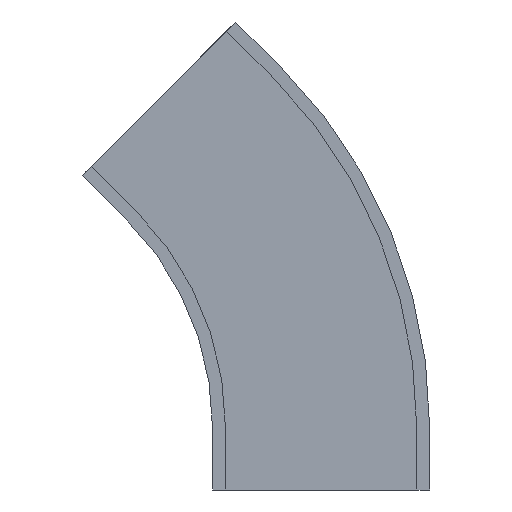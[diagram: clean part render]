
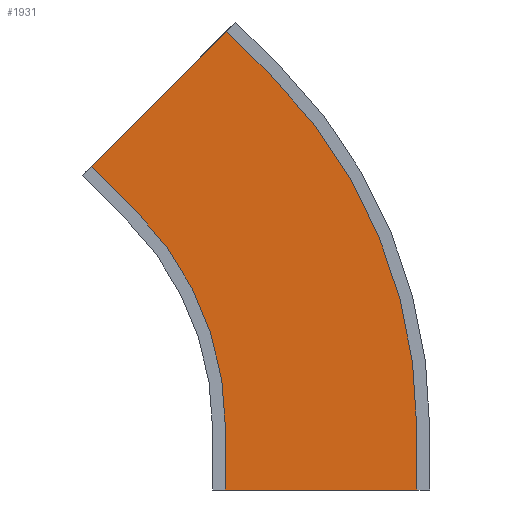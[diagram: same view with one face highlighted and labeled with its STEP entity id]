
A CAD part, front view. The second image highlights one B-rep face of the part: STEP entity #1931.
In plain terms, the highlighted planar face has unit normal (0, -1, 0).
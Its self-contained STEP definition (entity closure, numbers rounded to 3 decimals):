
#116 = DIRECTION ( 'NONE',  ( -1., 0., 0. ) ) ;
#117 = DIRECTION ( 'NONE',  ( 0., 1., 0. ) ) ;
#118 = CARTESIAN_POINT ( 'NONE',  ( 0., -68., 0. ) ) ;
#125 = DIRECTION ( 'NONE',  ( 0.707, 0., -0.707 ) ) ;
#126 = CARTESIAN_POINT ( 'NONE',  ( 489.601, -68., 631.022 ) ) ;
#127 = DIRECTION ( 'NONE',  ( 0.707, 0., 0.707 ) ) ;
#138 = CARTESIAN_POINT ( 'NONE',  ( -70.711, -68., 70.711 ) ) ;
#152 = DIRECTION ( 'NONE',  ( 0.707, 0., -0.707 ) ) ;
#153 = CARTESIAN_POINT ( 'NONE',  ( 274.075, -68., 415.496 ) ) ;
#156 = DIRECTION ( 'NONE',  ( -1., 0., 0. ) ) ;
#157 = DIRECTION ( 'NONE',  ( 0., 1., 0. ) ) ;
#158 = CARTESIAN_POINT ( 'NONE',  ( 0., -68., 0. ) ) ;
#162 = DIRECTION ( 'NONE',  ( 0., 0., 1. ) ) ;
#163 = DIRECTION ( 'NONE',  ( 0., 0., 1. ) ) ;
#165 = CARTESIAN_POINT ( 'NONE',  ( 792.4, -68., -100. ) ) ;
#168 = DIRECTION ( 'NONE',  ( -1., 0., 0. ) ) ;
#172 = CARTESIAN_POINT ( 'NONE',  ( 487.6, -68., -100. ) ) ;
#175 = CARTESIAN_POINT ( 'NONE',  ( 0., -68., -100. ) ) ;
#475 = CARTESIAN_POINT ( 'NONE',  ( 487.6, -68., 0. ) ) ;
#480 = CARTESIAN_POINT ( 'NONE',  ( 274.075, -68., 415.496 ) ) ;
#485 = CARTESIAN_POINT ( 'NONE',  ( 792.4, -68., 0. ) ) ;
#503 = CARTESIAN_POINT ( 'NONE',  ( 560.311, -68., 560.311 ) ) ;
#515 = CARTESIAN_POINT ( 'NONE',  ( 792.4, -68., -100. ) ) ;
#546 = CARTESIAN_POINT ( 'NONE',  ( 489.601, -68., 631.022 ) ) ;
#623 = CARTESIAN_POINT ( 'NONE',  ( 487.6, -68., -100. ) ) ;
#643 = CARTESIAN_POINT ( 'NONE',  ( 344.785, -68., 344.785 ) ) ;
#714 = EDGE_LOOP ( 'NONE', ( #1581, #1579, #1568, #1560, #1566, #1520, #1358, #1364 ) ) ;
#781 = VERTEX_POINT ( 'NONE', #623 ) ;
#797 = VERTEX_POINT ( 'NONE', #503 ) ;
#803 = VERTEX_POINT ( 'NONE', #480 ) ;
#808 = VERTEX_POINT ( 'NONE', #515 ) ;
#812 = VERTEX_POINT ( 'NONE', #475 ) ;
#817 = VERTEX_POINT ( 'NONE', #643 ) ;
#828 = VERTEX_POINT ( 'NONE', #485 ) ;
#847 = VERTEX_POINT ( 'NONE', #546 ) ;
#1041 = AXIS2_PLACEMENT_3D ( 'NONE', #158, #157, #156 ) ;
#1045 = AXIS2_PLACEMENT_3D ( 'NONE', #118, #117, #116 ) ;
#1088 = EDGE_CURVE ( 'NONE', #808, #781, #1385, .T. ) ;
#1090 = EDGE_CURVE ( 'NONE', #808, #828, #1406, .T. ) ;
#1091 = EDGE_CURVE ( 'NONE', #781, #812, #1708, .T. ) ;
#1094 = EDGE_CURVE ( 'NONE', #817, #812, #1666, .T. ) ;
#1103 = EDGE_CURVE ( 'NONE', #803, #817, #1673, .T. ) ;
#1107 = EDGE_CURVE ( 'NONE', #803, #847, #1658, .T. ) ;
#1108 = EDGE_CURVE ( 'NONE', #847, #797, #1730, .T. ) ;
#1110 = EDGE_CURVE ( 'NONE', #797, #828, #1720, .T. ) ;
#1264 = FACE_OUTER_BOUND ( 'NONE', #714, .T. ) ;
#1270 = VECTOR ( 'NONE', #125, 1000. ) ;
#1358 = ORIENTED_EDGE ( 'NONE', *, *, #1088, .F. ) ;
#1364 = ORIENTED_EDGE ( 'NONE', *, *, #1090, .T. ) ;
#1385 = LINE ( 'NONE', #175, #1605 ) ;
#1406 = LINE ( 'NONE', #165, #1707 ) ;
#1520 = ORIENTED_EDGE ( 'NONE', *, *, #1091, .F. ) ;
#1560 = ORIENTED_EDGE ( 'NONE', *, *, #1103, .T. ) ;
#1566 = ORIENTED_EDGE ( 'NONE', *, *, #1094, .T. ) ;
#1568 = ORIENTED_EDGE ( 'NONE', *, *, #1107, .F. ) ;
#1579 = ORIENTED_EDGE ( 'NONE', *, *, #1108, .F. ) ;
#1581 = ORIENTED_EDGE ( 'NONE', *, *, #1110, .F. ) ;
#1605 = VECTOR ( 'NONE', #168, 1000. ) ;
#1658 = LINE ( 'NONE', #138, #1727 ) ;
#1666 = CIRCLE ( 'NONE', #1041, 487.6 ) ;
#1673 = LINE ( 'NONE', #153, #1715 ) ;
#1702 = VECTOR ( 'NONE', #162, 1000. ) ;
#1707 = VECTOR ( 'NONE', #163, 1000. ) ;
#1708 = LINE ( 'NONE', #172, #1702 ) ;
#1715 = VECTOR ( 'NONE', #152, 1000. ) ;
#1720 = CIRCLE ( 'NONE', #1045, 792.4 ) ;
#1727 = VECTOR ( 'NONE', #127, 1000. ) ;
#1730 = LINE ( 'NONE', #126, #1270 ) ;
#1779 = PLANE ( 'NONE',  #1909 ) ;
#1813 = CARTESIAN_POINT ( 'NONE',  ( 344.785, -68., 344.785 ) ) ;
#1817 = DIRECTION ( 'NONE',  ( -1., 0., 0. ) ) ;
#1836 = DIRECTION ( 'NONE',  ( 0., 1., 0. ) ) ;
#1909 = AXIS2_PLACEMENT_3D ( 'NONE', #1813, #1836, #1817 ) ;
#1931 = ADVANCED_FACE ( 'NONE', ( #1264 ), #1779, .F. ) ;
